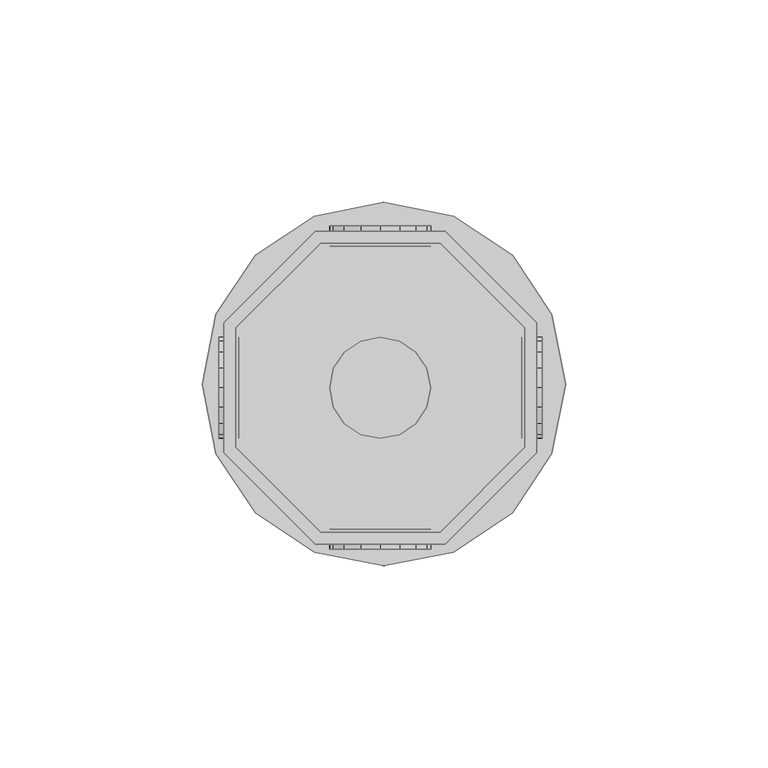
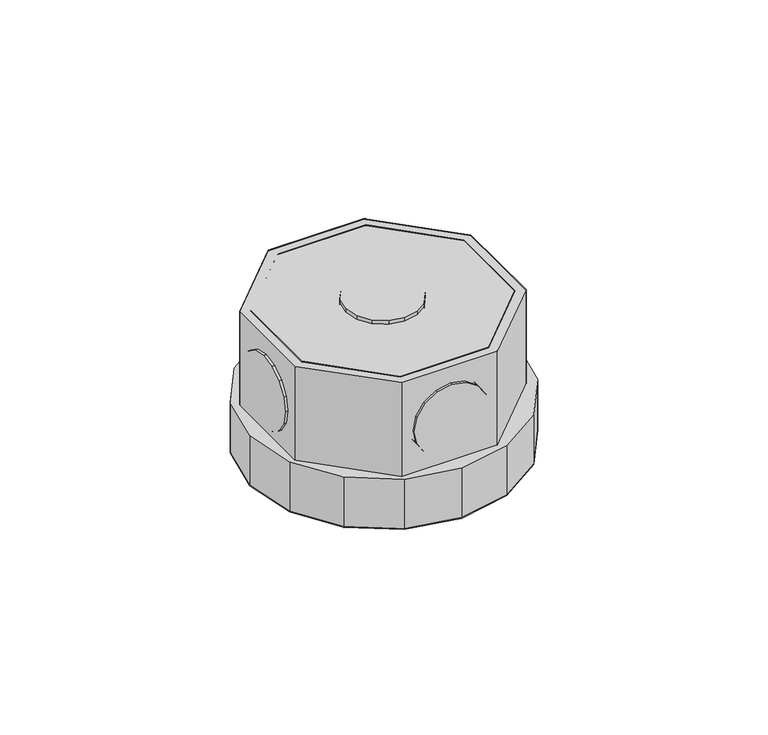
"""IFC4 building model written with IfcOpenShell, lengths in millimetres: light fixture geometry,  213434 :  213434."""

import ifcopenshell
import ifcopenshell.guid

model = None  # the IFC model being written
_history = None  # IfcOwnerHistory: only IFC2X3 demands one
_inside = {}  # id of a spatial element -> (the spatial element, [elements in it])
_under = {}  # id of a project, library or spatial element -> (it, [spatial elements below it])
_declared = {}  # id of a project -> (the project, [libraries it declares])
_typed = {}  # id of a type object -> (the type object, [elements of that type])
_made_of = {}  # id of a material, layer set ... -> (it, [elements and type objects made of it])


def new_model(schema):
    """Start an empty IFC model of exactly this schema.

    Asked for "IFC4X3", IfcOpenShell would pick the latest addendum, in which some entities
    have other attributes; the version numbers below select the first issue.
    IFC2X3 requires an IfcOwnerHistory on every rooted entity: one is made here for all.
    """
    global model, _history
    if schema == "IFC4X3":
        model = ifcopenshell.file(schema_version=(4, 3, 0, 0))
    else:
        model = ifcopenshell.file(schema=schema)
    _inside.clear()
    _under.clear()
    _declared.clear()
    _typed.clear()
    _made_of.clear()
    _history = None
    if model.schema == "IFC2X3":
        org = make("IfcOrganization", Name="unknown")
        user = make(
            "IfcPersonAndOrganization",
            ThePerson=make("IfcPerson", FamilyName="unknown"),
            TheOrganization=org,
        )
        app = make(
            "IfcApplication",
            ApplicationDeveloper=org,
            Version="unknown",
            ApplicationFullName="unknown",
            ApplicationIdentifier="unknown",
        )
        _history = make(
            "IfcOwnerHistory",
            OwningUser=user,
            OwningApplication=app,
            ChangeAction="ADDED",
            CreationDate=0,
        )
    return model


def make(cls, **values):
    """One entity of the class cls with the attributes given. An attribute that is None is left unset."""
    return model.create_entity(
        cls, **{name: value for name, value in values.items() if value is not None}
    )


def rooted(cls, **values):
    """An entity with a GlobalId (a new one), such as an element, a storey or a relation."""
    return make(cls, GlobalId=ifcopenshell.guid.new(), OwnerHistory=_history, **values)


def si_unit(unit_type, name, prefix=None):
    """IfcSIUnit, for example si_unit("LENGTHUNIT", "METRE", prefix="MILLI")."""
    return make("IfcSIUnit", UnitType=unit_type, Prefix=prefix, Name=name)


def assignment(units):
    """IfcUnitAssignment: the units of a project."""
    return None if units is None else make("IfcUnitAssignment", Units=units)


def point(xyz):
    """IfcCartesianPoint."""
    return None if xyz is None else make("IfcCartesianPoint", Coordinates=xyz)


def direction(xyz):
    """IfcDirection."""
    return None if xyz is None else make("IfcDirection", DirectionRatios=xyz)


def frame(location, z_axis=None, x_axis=None):
    """IfcAxis2Placement3D, a coordinate frame: its origin and axes. An axis left out is left unset."""
    return make(
        "IfcAxis2Placement3D",
        Location=point(location),
        Axis=direction(z_axis),
        RefDirection=direction(x_axis),
    )


def origin():
    """The frame at (0, 0, 0) with its axes left unset."""
    return frame((0.0, 0.0, 0.0))


def place(relative_to, where):
    """IfcLocalPlacement: puts the frame where relative to a parent placement (None: the world)."""
    return make(
        "IfcLocalPlacement", PlacementRelTo=relative_to, RelativePlacement=where
    )


def context(
    kind, dimensions, precision=None, world=None, true_north=None, identifier=None
):
    """IfcGeometricRepresentationContext, for example the 3D "Model" context."""
    return make(
        "IfcGeometricRepresentationContext",
        ContextIdentifier=identifier,
        ContextType=kind,
        CoordinateSpaceDimension=dimensions,
        Precision=precision,
        WorldCoordinateSystem=world,
        TrueNorth=true_north,
    )


def project(units=None, contexts=None):
    """IfcProject with its units and contexts."""
    return rooted(
        "IfcProject",
        Name="project",
        RepresentationContexts=contexts,
        UnitsInContext=assignment(units),
    )


def spatial(cls, under=None, at=None, **own):
    """A site, building, storey or space (cls), placed at a placement, below another one or the project."""
    s = rooted(cls, ObjectPlacement=at, **own)
    if under is not None:
        _under.setdefault(under.id(), (under, []))[1].append(s)
    return s


def point_list(points):
    """IfcCartesianPointList2D or 3D."""
    cls = (
        "IfcCartesianPointList2D" if len(points[0]) == 2 else "IfcCartesianPointList3D"
    )
    return make(cls, CoordList=points)


def triangles(points, corners, closed=None, point_numbers=None):
    """IfcTriangulatedFaceSet: each triangle names its three corners, points numbered from 1."""
    return make(
        "IfcTriangulatedFaceSet",
        Coordinates=point_list(points),
        Closed=closed,
        CoordIndex=corners,
        PnIndex=point_numbers,
    )


def shape(context_of_items, identifier, shape_type, items):
    """IfcShapeRepresentation: the items that make up one representation, for example the "Body"."""
    return make(
        "IfcShapeRepresentation",
        ContextOfItems=context_of_items,
        RepresentationIdentifier=identifier,
        RepresentationType=shape_type,
        Items=items,
    )


def source(mapping_origin, context_of_items, identifier, shape_type, items):
    """IfcRepresentationMap: a shape defined once, which mapped items show again and again."""
    return make(
        "IfcRepresentationMap",
        MappingOrigin=mapping_origin,
        MappedRepresentation=shape(context_of_items, identifier, shape_type, items),
    )


def transform(
    local_origin,
    x_axis=None,
    y_axis=None,
    z_axis=None,
    scale=None,
    scale2=None,
    scale3=None,
    uniform=True,
):
    """IfcCartesianTransformationOperator3D, or its non-uniform kind. x_axis, y_axis, z_axis: its Axis1, 2, 3."""
    if uniform:
        return make(
            "IfcCartesianTransformationOperator3D",
            Axis1=direction(x_axis),
            Axis2=direction(y_axis),
            LocalOrigin=point(local_origin),
            Scale=scale,
            Axis3=direction(z_axis),
        )
    return make(
        "IfcCartesianTransformationOperator3DnonUniform",
        Axis1=direction(x_axis),
        Axis2=direction(y_axis),
        LocalOrigin=point(local_origin),
        Scale=scale,
        Axis3=direction(z_axis),
        Scale2=scale2,
        Scale3=scale3,
    )


def mapped(mapping_source, mapping_target):
    """IfcMappedItem: shows the shape of a source again, moved by a transform."""
    return make(
        "IfcMappedItem", MappingSource=mapping_source, MappingTarget=mapping_target
    )


def made_of(thing, what):
    """Note that an element or type object is made of a material, layer set ...; save() writes the relation."""
    if what is not None:
        _made_of.setdefault(what.id(), (what, []))[1].append(thing)
    return thing


def element(
    cls,
    number,
    at=None,
    inside=None,
    cuts=None,
    type_object=None,
    material=None,
    context=None,
    identifier="Body",
    shape_type=None,
    held_by="IfcProductDefinitionShape",
    body=None,
    shapes=None,
    **own,
):
    """One element of the class cls, such as IfcWall. Its Tag is "e" and its number.

    at: its placement. inside: the storey or other place that contains it. cuts: it is an
    opening in that element (IfcRelVoidsElement). A single representation is given by context,
    identifier, shape_type and body (its items); several are given by shapes. held_by: the class
    of the entity that holds the representations. save() writes the other relations.
    """
    e = rooted(cls, Tag="e%d" % number, ObjectPlacement=at, **own)
    if body is not None:
        shapes = [shape(context, identifier, shape_type, body)]
    if shapes is not None:
        e.Representation = make(held_by, Representations=shapes)
    if inside is not None:
        _inside.setdefault(inside.id(), (inside, []))[1].append(e)
    if cuts is not None:
        rooted(
            "IfcRelVoidsElement", RelatingBuildingElement=cuts, RelatedOpeningElement=e
        )
    if type_object is not None:
        _typed.setdefault(type_object.id(), (type_object, []))[1].append(e)
    return made_of(e, material)


def aggregate(whole, parts):
    """IfcRelAggregates: a whole, such as a stair, and the parts it consists of."""
    return rooted("IfcRelAggregates", RelatingObject=whole, RelatedObjects=parts)


def save(model, path):
    """Write the relations noted so far, then the file.

    IfcRelAggregates (storeys below a building ...), IfcRelContainedInSpatialStructure (elements
    in a storey), IfcRelDefinesByType, IfcRelAssociatesMaterial and IfcRelDeclares: one each for
    every whole, place, type object, material and project.
    """
    for whole, parts in _under.values():
        aggregate(whole, parts)
    for where, things in _inside.values():
        rooted(
            "IfcRelContainedInSpatialStructure",
            RelatedElements=things,
            RelatingStructure=where,
        )
    for kind, things in _typed.values():
        rooted("IfcRelDefinesByType", RelatedObjects=things, RelatingType=kind)
    for what, things in _made_of.values():
        rooted("IfcRelAssociatesMaterial", RelatedObjects=things, RelatingMaterial=what)
    for by, libraries in _declared.values():
        rooted("IfcRelDeclares", RelatingContext=by, RelatedDefinitions=libraries)
    model.write(path)


def light_fixture_47a1ad36(model_context):
    return source(origin(), model_context, "Body", "Tessellation", [
        triangles([(15365.3004913, 18744.6000366, 2924.5999741), (15365.3004913, 18714.9995178, 2975.400071), (15365.3004913, 18714.9995178, 2924.5999741), (15365.3004913, 18744.6000366, 2975.400071), (15439.7994324, 18745.7999634, 2924.5999741), (15439.7994324, 18713.6995972, 2975.400071), (15439.7994324, 18713.6995972, 2924.5999741), (15439.7994324, 18745.7999634, 2975.400071), (15386.3003723, 18693.9996368, 2975.400071), (15386.3003723, 18693.9996368, 2924.5999741), (15417.0996552, 18768.4997406, 2924.5999741), (15417.0996552, 18768.4997406, 2975.400071), (15415.8997284, 18693.9996368, 2975.400071), (15415.8997284, 18693.9996368, 2924.5999741), (15385.0004517, 18768.4997406, 2924.5999741), (15385.0004517, 18768.4997406, 2975.400071), (15436.7996155, 18714.9995178, 2975.400071), (15436.7996155, 18714.9995178, 2924.5999741), (15362.2995117, 18745.7999634, 2924.5999741), (15362.2995117, 18745.7999634, 2975.400071), (15436.7996155, 18744.6000366, 2924.5999741), (15436.7996155, 18744.6000366, 2975.400071), (15362.2995117, 18713.6995972, 2975.400071), (15362.2995117, 18713.6995972, 2924.5999741), (15415.8997284, 18765.4999237, 2924.5999741), (15415.8997284, 18765.4999237, 2975.400071), (15385.0004517, 18690.9998199, 2975.400071), (15385.0004517, 18690.9998199, 2924.5999741), (15417.0996552, 18690.9998199, 2975.400071), (15386.3003723, 18765.4999237, 2975.400071), (15386.3003723, 18765.4999237, 2924.5999741), (15417.0996552, 18690.9998199, 2924.5999741), (15415.8997284, 18693.9996368, 2972.3999634), (15436.7996155, 18714.9995178, 2972.3999634), (15436.7996155, 18744.6000366, 2972.3999634), (15415.8997284, 18765.4999237, 2972.3999634), (15386.3003723, 18765.4999237, 2972.3999634), (15365.3004913, 18744.6000366, 2972.3999634), (15365.3004913, 18714.9995178, 2972.3999634), (15386.3003723, 18693.9996368, 2972.3999634), (15385.0004517, 18690.9998199, 2942.4000504), (15362.2995117, 18713.6995972, 2942.4000504), (15362.2995117, 18745.7999634, 2942.4000504), (15385.0004517, 18768.4997406, 2942.4000504), (15417.0996552, 18768.4997406, 2942.4000504), (15439.7994324, 18745.7999634, 2942.4000504), (15439.7994324, 18713.6995972, 2942.4000504), (15417.0996552, 18690.9998199, 2942.4000504), (15443.5003693, 18713.3996155, 2942.4000504), (15419.199527, 18689.0999359, 2942.4000504), (15433.7997986, 18698.8005066, 2942.4000504), (15402.0005768, 18685.7001434, 2942.4000504), (15384.70047, 18689.0999359, 2942.4000504), (15370.1001984, 18698.8005066, 2942.4000504), (15360.3996277, 18713.3996155, 2942.4000504), (15356.9998352, 18730.6997223, 2942.4000504), (15360.3996277, 18747.8998352, 2942.4000504), (15384.70047, 18772.1995148, 2942.4000504), (15370.1001984, 18762.5001068, 2942.4000504), (15447.0001556, 18730.6997223, 2942.4000504), (15443.5003693, 18747.8998352, 2942.4000504), (15433.7997986, 18762.5001068, 2942.4000504), (15419.199527, 18772.1995148, 2942.4000504), (15402.0005768, 18775.7004639, 2942.4000504), (15419.199527, 18689.0999359, 2924.5999741), (15443.5003693, 18713.3996155, 2924.5999741), (15433.7997986, 18698.8005066, 2924.5999741), (15402.0005768, 18685.7001434, 2924.5999741), (15384.70047, 18689.0999359, 2924.5999741), (15370.1001984, 18698.8005066, 2924.5999741), (15360.3996277, 18713.3996155, 2924.5999741), (15356.9998352, 18730.6997223, 2924.5999741), (15360.3996277, 18747.8998352, 2924.5999741), (15384.70047, 18772.1995148, 2924.5999741), (15370.1001984, 18762.5001068, 2924.5999741), (15447.0001556, 18730.6997223, 2924.5999741), (15443.5003693, 18747.8998352, 2924.5999741), (15433.7997986, 18762.5001068, 2924.5999741), (15419.199527, 18772.1995148, 2924.5999741), (15402.0005768, 18775.7004639, 2924.5999741), (15361.099585, 18718.2004852, 2952.6000092), (15361.099585, 18725.0000702, 2945.9001274), (15361.099585, 18720.9003204, 2948.5999626), (15361.099585, 18717.3005402, 2957.4000069), (15361.099585, 18729.7997772, 2944.8998978), (15361.099585, 18718.2004852, 2962.2000046), (15361.099585, 18734.5994843, 2945.9001274), (15361.099585, 18720.9003204, 2966.2000511), (15361.099585, 18738.6004028, 2948.5999626), (15361.099585, 18725.0000702, 2968.8998863), (15361.099585, 18741.300238, 2952.6000092), (15361.099585, 18729.7997772, 2969.900116), (15361.099585, 18742.300177, 2957.4000069), (15361.099585, 18734.5994843, 2968.8998863), (15361.099585, 18741.300238, 2962.2000046), (15361.099585, 18738.6004028, 2966.2000511), (15366.1004425, 18725.0000702, 2945.9001274), (15366.1004425, 18718.2004852, 2952.6000092), (15366.1004425, 18720.9003204, 2948.5999626), (15366.1004425, 18729.7997772, 2944.8998978), (15366.1004425, 18717.3005402, 2957.4000069), (15366.1004425, 18734.5994843, 2945.9001274), (15366.1004425, 18718.2004852, 2962.2000046), (15366.1004425, 18738.6004028, 2948.5999626), (15366.1004425, 18720.9003204, 2966.2000511), (15366.1004425, 18725.0000702, 2968.8998863), (15366.1004425, 18741.300238, 2952.6000092), (15366.1004425, 18729.7997772, 2969.900116), (15366.1004425, 18742.300177, 2957.4000069), (15366.1004425, 18734.5994843, 2968.8998863), (15366.1004425, 18741.300238, 2962.2000046), (15366.1004425, 18738.6004028, 2966.2000511), (15436.0996582, 18718.2004852, 2952.6000092), (15436.0996582, 18725.0000702, 2945.9001274), (15436.0996582, 18720.9003204, 2948.5999626), (15436.0996582, 18717.3005402, 2957.4000069), (15436.0996582, 18729.7997772, 2944.8998978), (15436.0996582, 18718.2004852, 2962.2000046), (15436.0996582, 18734.5994843, 2945.9001274), (15436.0996582, 18720.9003204, 2966.2000511), (15436.0996582, 18738.6004028, 2948.5999626), (15436.0996582, 18725.0000702, 2968.8998863), (15436.0996582, 18741.300238, 2952.6000092), (15436.0996582, 18729.7997772, 2969.900116), (15436.0996582, 18742.300177, 2957.4000069), (15436.0996582, 18734.5994843, 2968.8998863), (15436.0996582, 18741.300238, 2962.2000046), (15436.0996582, 18738.6004028, 2966.2000511), (15441.1005157, 18725.0000702, 2945.9001274), (15441.1005157, 18718.2004852, 2952.6000092), (15441.1005157, 18720.9003204, 2948.5999626), (15441.1005157, 18729.7997772, 2944.8998978), (15441.1005157, 18717.3005402, 2957.4000069), (15441.1005157, 18734.5994843, 2945.9001274), (15441.1005157, 18718.2004852, 2962.2000046), (15441.1005157, 18738.6004028, 2948.5999626), (15441.1005157, 18720.9003204, 2966.2000511), (15441.1005157, 18725.0000702, 2968.8998863), (15441.1005157, 18741.300238, 2952.6000092), (15441.1005157, 18729.7997772, 2969.900116), (15441.1005157, 18742.300177, 2957.4000069), (15441.1005157, 18734.5994843, 2968.8998863), (15441.1005157, 18741.300238, 2962.2000046), (15441.1005157, 18738.6004028, 2966.2000511), (15405.9003387, 18694.799588, 2945.9001274), (15412.5999298, 18694.799588, 2952.6000092), (15409.9000946, 18694.799588, 2948.5999626), (15401.099469, 18694.799588, 2944.8998978), (15413.5998688, 18694.799588, 2957.4000069), (15396.299762, 18694.799588, 2945.9001274), (15412.5999298, 18694.799588, 2962.2000046), (15392.2000122, 18694.799588, 2948.5999626), (15409.9000946, 18694.799588, 2966.2000511), (15405.9003387, 18694.799588, 2968.8998863), (15389.500177, 18694.799588, 2952.6000092), (15401.099469, 18694.799588, 2969.900116), (15388.6002319, 18694.799588, 2957.4000069), (15396.299762, 18694.799588, 2968.8998863), (15389.500177, 18694.799588, 2962.2000046), (15392.2000122, 18694.799588, 2966.2000511), (15412.5999298, 18689.7998932, 2952.6000092), (15405.9003387, 18689.7998932, 2945.9001274), (15409.9000946, 18689.7998932, 2948.5999626), (15413.5998688, 18689.7998932, 2957.4000069), (15401.099469, 18689.7998932, 2944.8998978), (15412.5999298, 18689.7998932, 2962.2000046), (15396.299762, 18689.7998932, 2945.9001274), (15409.9000946, 18689.7998932, 2966.2000511), (15392.2000122, 18689.7998932, 2948.5999626), (15405.9003387, 18689.7998932, 2968.8998863), (15389.500177, 18689.7998932, 2952.6000092), (15401.099469, 18689.7998932, 2969.900116), (15388.6002319, 18689.7998932, 2957.4000069), (15396.299762, 18689.7998932, 2968.8998863), (15389.500177, 18689.7998932, 2962.2000046), (15392.2000122, 18689.7998932, 2966.2000511), (15405.9003387, 18769.7996613, 2945.9001274), (15412.5999298, 18769.7996613, 2952.6000092), (15409.9000946, 18769.7996613, 2948.5999626), (15401.099469, 18769.7996613, 2944.8998978), (15413.5998688, 18769.7996613, 2957.4000069), (15396.299762, 18769.7996613, 2945.9001274), (15412.5999298, 18769.7996613, 2962.2000046), (15392.2000122, 18769.7996613, 2948.5999626), (15409.9000946, 18769.7996613, 2966.2000511), (15405.9003387, 18769.7996613, 2968.8998863), (15389.500177, 18769.7996613, 2952.6000092), (15401.099469, 18769.7996613, 2969.900116), (15388.6002319, 18769.7996613, 2957.4000069), (15396.299762, 18769.7996613, 2968.8998863), (15389.500177, 18769.7996613, 2962.2000046), (15392.2000122, 18769.7996613, 2966.2000511), (15412.5999298, 18764.7999664, 2952.6000092), (15405.9003387, 18764.7999664, 2945.9001274), (15409.9000946, 18764.7999664, 2948.5999626), (15413.5998688, 18764.7999664, 2957.4000069), (15401.099469, 18764.7999664, 2944.8998978), (15412.5999298, 18764.7999664, 2962.2000046), (15396.299762, 18764.7999664, 2945.9001274), (15409.9000946, 18764.7999664, 2966.2000511), (15392.2000122, 18764.7999664, 2948.5999626), (15405.9003387, 18764.7999664, 2968.8998863), (15389.500177, 18764.7999664, 2952.6000092), (15401.099469, 18764.7999664, 2969.900116), (15388.6002319, 18764.7999664, 2957.4000069), (15396.299762, 18764.7999664, 2968.8998863), (15389.500177, 18764.7999664, 2962.2000046), (15392.2000122, 18764.7999664, 2966.2000511), (15412.5999298, 18725.0000702, 2976.9999733), (15405.9003387, 18718.2004852, 2976.9999733), (15409.9000946, 18720.9003204, 2976.9999733), (15401.099469, 18717.3005402, 2976.9999733), (15413.5998688, 18729.7997772, 2976.9999733), (15396.299762, 18718.2004852, 2976.9999733), (15412.5999298, 18734.5994843, 2976.9999733), (15392.2000122, 18720.9003204, 2976.9999733), (15409.9000946, 18738.6004028, 2976.9999733), (15389.500177, 18725.0000702, 2976.9999733), (15405.9003387, 18741.300238, 2976.9999733), (15388.6002319, 18729.7997772, 2976.9999733), (15401.099469, 18742.300177, 2976.9999733), (15389.500177, 18734.5994843, 2976.9999733), (15396.299762, 18741.300238, 2976.9999733), (15392.2000122, 18738.6004028, 2976.9999733), (15405.9003387, 18718.2004852, 2971.9999878), (15412.5999298, 18725.0000702, 2971.9999878), (15409.9000946, 18720.9003204, 2971.9999878), (15401.099469, 18717.3005402, 2971.9999878), (15413.5998688, 18729.7997772, 2971.9999878), (15396.299762, 18718.2004852, 2971.9999878), (15412.5999298, 18734.5994843, 2971.9999878), (15392.2000122, 18720.9003204, 2971.9999878), (15409.9000946, 18738.6004028, 2971.9999878), (15389.500177, 18725.0000702, 2971.9999878), (15405.9003387, 18741.300238, 2971.9999878), (15388.6002319, 18729.7997772, 2971.9999878), (15401.099469, 18742.300177, 2971.9999878), (15389.500177, 18734.5994843, 2971.9999878), (15396.299762, 18741.300238, 2971.9999878), (15392.2000122, 18738.6004028, 2971.9999878)], [[1, 2, 3], [2, 1, 4], [5, 6, 7], [6, 5, 8], [3, 9, 10], [9, 3, 2], [11, 8, 5], [8, 11, 12], [10, 13, 14], [13, 10, 9], [15, 12, 11], [12, 15, 16], [14, 17, 18], [17, 14, 13], [19, 16, 15], [16, 19, 20], [17, 21, 18], [21, 17, 22], [23, 19, 24], [19, 23, 20], [22, 25, 21], [25, 22, 26], [27, 24, 28], [24, 27, 23], [6, 13, 29], [29, 13, 27], [27, 13, 9], [27, 9, 23], [23, 9, 2], [23, 2, 4], [23, 4, 20], [20, 4, 30], [8, 17, 6], [6, 17, 13], [17, 8, 22], [12, 22, 8], [22, 12, 26], [30, 26, 12], [16, 30, 12], [20, 30, 16], [30, 1, 31], [1, 30, 4], [6, 32, 7], [32, 6, 29], [32, 14, 7], [28, 14, 32], [14, 28, 10], [24, 10, 28], [10, 24, 3], [1, 3, 24], [19, 1, 24], [31, 1, 19], [7, 18, 5], [14, 18, 7], [5, 18, 21], [5, 21, 11], [11, 21, 25], [11, 25, 31], [11, 31, 15], [15, 31, 19], [26, 31, 25], [31, 26, 30], [29, 28, 32], [28, 29, 27], [17, 33, 34], [33, 17, 13], [35, 17, 34], [17, 35, 22], [36, 22, 35], [22, 36, 26], [37, 26, 36], [26, 37, 30], [38, 30, 37], [30, 38, 4], [2, 38, 39], [38, 2, 4], [17, 9, 13], [9, 17, 22], [9, 22, 2], [2, 22, 26], [2, 26, 4], [4, 26, 30], [13, 40, 33], [40, 13, 9], [40, 34, 33], [35, 34, 40], [35, 40, 39], [35, 39, 36], [36, 39, 38], [36, 38, 37], [9, 39, 40], [39, 9, 2], [24, 41, 28], [41, 24, 42], [19, 42, 24], [42, 19, 43], [44, 19, 15], [19, 44, 43], [45, 15, 11], [15, 45, 44], [46, 11, 5], [11, 46, 45], [47, 5, 7], [5, 47, 46], [32, 47, 7], [47, 32, 48], [28, 48, 32], [48, 28, 41], [49, 50, 51], [48, 50, 49], [50, 48, 52], [41, 52, 48], [52, 41, 53], [53, 41, 54], [42, 54, 41], [54, 42, 55], [55, 42, 43], [55, 43, 56], [56, 43, 57], [57, 43, 44], [57, 44, 58], [57, 58, 59], [47, 49, 60], [49, 47, 48], [47, 60, 46], [61, 46, 60], [46, 61, 62], [46, 62, 45], [45, 62, 63], [44, 45, 63], [44, 63, 64], [44, 64, 58], [65, 66, 67], [66, 65, 32], [68, 32, 65], [32, 68, 28], [28, 68, 69], [70, 28, 69], [28, 70, 24], [71, 24, 70], [19, 24, 71], [19, 71, 72], [73, 19, 72], [19, 73, 15], [74, 15, 73], [74, 73, 75], [76, 66, 7], [32, 7, 66], [5, 76, 7], [76, 5, 77], [77, 5, 78], [11, 78, 5], [78, 11, 79], [79, 11, 15], [79, 15, 80], [80, 15, 74], [57, 75, 73], [75, 57, 59], [56, 73, 72], [73, 56, 57], [55, 72, 71], [72, 55, 56], [54, 71, 70], [71, 54, 55], [53, 70, 69], [70, 53, 54], [52, 69, 68], [69, 52, 53], [50, 68, 65], [68, 50, 52], [51, 65, 67], [65, 51, 50], [66, 51, 67], [51, 66, 49], [76, 49, 66], [49, 76, 60], [77, 60, 76], [60, 77, 61], [78, 61, 77], [61, 78, 62], [79, 62, 78], [62, 79, 63], [80, 63, 79], [63, 80, 64], [75, 58, 74], [58, 75, 59], [74, 64, 80], [64, 74, 58], [81, 82, 83], [82, 81, 84], [85, 82, 84], [85, 84, 86], [87, 85, 86], [87, 86, 88], [87, 88, 89], [89, 88, 90], [89, 90, 91], [91, 90, 92], [91, 92, 93], [93, 92, 94], [93, 94, 95], [95, 94, 96], [97, 98, 99], [98, 97, 100], [101, 98, 100], [101, 100, 102], [103, 101, 102], [103, 102, 104], [103, 104, 105], [105, 104, 106], [106, 104, 107], [106, 107, 108], [108, 107, 109], [108, 109, 110], [110, 109, 111], [110, 111, 112], [87, 104, 102], [104, 87, 89], [85, 102, 100], [102, 85, 87], [82, 100, 97], [100, 82, 85], [83, 97, 99], [97, 83, 82], [98, 83, 99], [83, 98, 81], [101, 81, 98], [81, 101, 84], [103, 84, 101], [84, 103, 86], [105, 86, 103], [86, 105, 88], [106, 88, 105], [88, 106, 90], [108, 90, 106], [90, 108, 92], [110, 92, 108], [92, 110, 94], [112, 94, 110], [94, 112, 96], [95, 112, 111], [112, 95, 96], [93, 111, 109], [111, 93, 95], [89, 107, 104], [107, 89, 91], [91, 109, 107], [109, 91, 93], [113, 114, 115], [114, 113, 116], [117, 114, 116], [117, 116, 118], [119, 117, 118], [119, 118, 120], [119, 120, 121], [121, 120, 122], [121, 122, 123], [123, 122, 124], [123, 124, 125], [125, 124, 126], [125, 126, 127], [127, 126, 128], [129, 130, 131], [130, 129, 132], [133, 130, 132], [133, 132, 134], [135, 133, 134], [135, 134, 136], [135, 136, 137], [137, 136, 138], [138, 136, 139], [138, 139, 140], [140, 139, 141], [140, 141, 142], [142, 141, 143], [142, 143, 144], [119, 136, 134], [136, 119, 121], [117, 134, 132], [134, 117, 119], [114, 132, 129], [132, 114, 117], [115, 129, 131], [129, 115, 114], [130, 115, 131], [115, 130, 113], [133, 113, 130], [113, 133, 116], [135, 116, 133], [116, 135, 118], [137, 118, 135], [118, 137, 120], [138, 120, 137], [120, 138, 122], [140, 122, 138], [122, 140, 124], [142, 124, 140], [124, 142, 126], [144, 126, 142], [126, 144, 128], [127, 144, 143], [144, 127, 128], [125, 143, 141], [143, 125, 127], [121, 139, 136], [139, 121, 123], [123, 141, 139], [141, 123, 125], [145, 146, 147], [146, 145, 148], [149, 146, 148], [149, 148, 150], [151, 149, 150], [151, 150, 152], [151, 152, 153], [153, 152, 154], [154, 152, 155], [154, 155, 156], [156, 155, 157], [156, 157, 158], [158, 157, 159], [158, 159, 160], [161, 162, 163], [162, 161, 164], [165, 162, 164], [165, 164, 166], [167, 165, 166], [167, 166, 168], [169, 167, 168], [169, 168, 170], [169, 170, 171], [171, 170, 172], [171, 172, 173], [173, 172, 174], [173, 174, 175], [175, 174, 176], [158, 176, 174], [176, 158, 160], [156, 174, 172], [174, 156, 158], [154, 172, 170], [172, 154, 156], [153, 170, 168], [170, 153, 154], [151, 168, 166], [168, 151, 153], [149, 166, 164], [166, 149, 151], [146, 164, 161], [164, 146, 149], [147, 161, 163], [161, 147, 146], [162, 147, 163], [147, 162, 145], [165, 145, 162], [145, 165, 148], [167, 148, 165], [148, 167, 150], [169, 150, 167], [150, 169, 152], [171, 152, 169], [152, 171, 155], [173, 155, 171], [155, 173, 157], [176, 159, 175], [159, 176, 160], [175, 157, 173], [157, 175, 159], [177, 178, 179], [178, 177, 180], [181, 178, 180], [181, 180, 182], [183, 181, 182], [183, 182, 184], [183, 184, 185], [185, 184, 186], [186, 184, 187], [186, 187, 188], [188, 187, 189], [188, 189, 190], [190, 189, 191], [190, 191, 192], [193, 194, 195], [194, 193, 196], [197, 194, 196], [197, 196, 198], [199, 197, 198], [199, 198, 200], [201, 199, 200], [201, 200, 202], [201, 202, 203], [203, 202, 204], [203, 204, 205], [205, 204, 206], [205, 206, 207], [207, 206, 208], [190, 208, 206], [208, 190, 192], [188, 206, 204], [206, 188, 190], [186, 204, 202], [204, 186, 188], [185, 202, 200], [202, 185, 186], [183, 200, 198], [200, 183, 185], [181, 198, 196], [198, 181, 183], [178, 196, 193], [196, 178, 181], [179, 193, 195], [193, 179, 178], [194, 179, 195], [179, 194, 177], [197, 177, 194], [177, 197, 180], [199, 180, 197], [180, 199, 182], [201, 182, 199], [182, 201, 184], [203, 184, 201], [184, 203, 187], [205, 187, 203], [187, 205, 189], [208, 191, 207], [191, 208, 192], [207, 189, 205], [189, 207, 191], [209, 210, 211], [212, 210, 209], [212, 209, 213], [214, 212, 213], [214, 213, 215], [216, 214, 215], [216, 215, 217], [216, 217, 218], [218, 217, 219], [218, 219, 220], [220, 219, 221], [220, 221, 222], [222, 221, 223], [222, 223, 224], [225, 226, 227], [226, 225, 228], [229, 226, 228], [229, 228, 230], [231, 229, 230], [231, 230, 232], [231, 232, 233], [233, 232, 234], [233, 234, 235], [235, 234, 236], [235, 236, 237], [237, 236, 238], [237, 238, 239], [239, 238, 240], [222, 240, 238], [240, 222, 224], [220, 238, 236], [238, 220, 222], [218, 236, 234], [236, 218, 220], [216, 234, 232], [234, 216, 218], [214, 232, 230], [232, 214, 216], [212, 230, 228], [230, 212, 214], [210, 228, 225], [228, 210, 212], [211, 225, 227], [225, 211, 210], [226, 211, 227], [211, 226, 209], [229, 209, 226], [209, 229, 213], [231, 213, 229], [213, 231, 215], [233, 215, 231], [215, 233, 217], [235, 217, 233], [217, 235, 219], [237, 219, 235], [219, 237, 221], [240, 223, 239], [223, 240, 224], [239, 221, 237], [221, 239, 223]], closed=False),
    ])


if __name__ == "__main__":
    model = new_model("IFC4")
    model_context = context("Model", 3, world=origin())
    ifc_project = project(units=[si_unit("LENGTHUNIT", "METRE", prefix="MILLI")], contexts=[model_context])
    site = spatial("IfcSite", under=ifc_project)
    building = spatial("IfcBuilding", under=site)
    placement = place(None, origin())
    light_fixture_shape = light_fixture_47a1ad36(model_context)
    element("IfcLightFixture", 1, ObjectType=" 213434 :  213434", at=placement, inside=building, context=model_context, shape_type="MappedRepresentation", body=[
        mapped(light_fixture_shape, transform((0.0, 0.0, 0.0), x_axis=(1.0, 0.0, 0.0), y_axis=(0.0, 1.0, 0.0), z_axis=(0.0, 0.0, 1.0))),
    ])
    save(model, "model.ifc")
